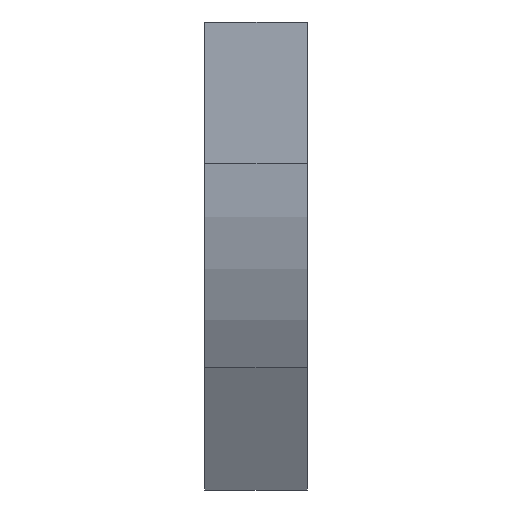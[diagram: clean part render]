
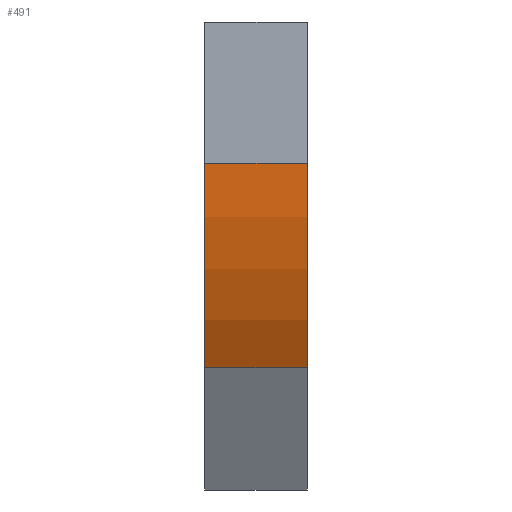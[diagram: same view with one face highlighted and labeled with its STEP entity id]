
A CAD part, left-side view. The second image highlights one B-rep face of the part: STEP entity #491.
In plain terms, the highlighted cylindrical face has radius 300 mm (diameter 600 mm), a partial arc.
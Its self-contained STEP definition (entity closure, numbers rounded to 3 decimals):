
#107 = EDGE_CURVE ( 'NONE', #1310, #1135, #1144, .T. ) ;
#119 = CARTESIAN_POINT ( 'NONE',  ( 300., 0., -103.59 ) ) ;
#198 = AXIS2_PLACEMENT_3D ( 'NONE', #375, #250, #1656 ) ;
#250 = DIRECTION ( 'NONE',  ( 0., -1., 0. ) ) ;
#261 = ORIENTED_EDGE ( 'NONE', *, *, #564, .F. ) ;
#332 = VERTEX_POINT ( 'NONE', #1232 ) ;
#375 = CARTESIAN_POINT ( 'NONE',  ( 300., 0., -103.59 ) ) ;
#388 = CARTESIAN_POINT ( 'NONE',  ( 0., 0., -103.59 ) ) ;
#491 = ADVANCED_FACE ( 'NONE', ( #1662 ), #1515, .T. ) ;
#561 = DIRECTION ( 'NONE',  ( 0., -1., 0. ) ) ;
#564 = EDGE_CURVE ( 'NONE', #1135, #332, #1242, .T. ) ;
#593 = EDGE_CURVE ( 'NONE', #1117, #332, #1077, .T. ) ;
#636 = DIRECTION ( 'NONE',  ( 0., -1., 0. ) ) ;
#738 = EDGE_CURVE ( 'NONE', #1310, #1117, #1211, .T. ) ;
#760 = DIRECTION ( 'NONE',  ( 0., -1., 0. ) ) ;
#800 = DIRECTION ( 'NONE',  ( 0., -1., 0. ) ) ;
#892 = AXIS2_PLACEMENT_3D ( 'NONE', #119, #636, #1393 ) ;
#916 = ORIENTED_EDGE ( 'NONE', *, *, #107, .F. ) ;
#942 = CARTESIAN_POINT ( 'NONE',  ( 0., 0., -103.59 ) ) ;
#962 = CARTESIAN_POINT ( 'NONE',  ( 300., 75., -103.59 ) ) ;
#1077 = LINE ( 'NONE', #1085, #1349 ) ;
#1082 = ORIENTED_EDGE ( 'NONE', *, *, #593, .T. ) ;
#1085 = CARTESIAN_POINT ( 'NONE',  ( 40.192, 0., -253.59 ) ) ;
#1099 = EDGE_LOOP ( 'NONE', ( #261, #916, #1512, #1082 ) ) ;
#1117 = VERTEX_POINT ( 'NONE', #1454 ) ;
#1135 = VERTEX_POINT ( 'NONE', #942 ) ;
#1144 = LINE ( 'NONE', #388, #1611 ) ;
#1211 = CIRCLE ( 'NONE', #1448, 300. ) ;
#1232 = CARTESIAN_POINT ( 'NONE',  ( 40.192, 0., -253.59 ) ) ;
#1242 = CIRCLE ( 'NONE', #198, 300. ) ;
#1310 = VERTEX_POINT ( 'NONE', #1614 ) ;
#1349 = VECTOR ( 'NONE', #561, 1000. ) ;
#1393 = DIRECTION ( 'NONE',  ( 0., 0., -1. ) ) ;
#1448 = AXIS2_PLACEMENT_3D ( 'NONE', #962, #800, #1464 ) ;
#1454 = CARTESIAN_POINT ( 'NONE',  ( 40.192, 75., -253.59 ) ) ;
#1464 = DIRECTION ( 'NONE',  ( -1., 0., 0. ) ) ;
#1512 = ORIENTED_EDGE ( 'NONE', *, *, #738, .T. ) ;
#1515 = CYLINDRICAL_SURFACE ( 'NONE', #892, 300. ) ;
#1611 = VECTOR ( 'NONE', #760, 1000. ) ;
#1614 = CARTESIAN_POINT ( 'NONE',  ( 0., 75., -103.59 ) ) ;
#1656 = DIRECTION ( 'NONE',  ( -1., 0., 0. ) ) ;
#1662 = FACE_OUTER_BOUND ( 'NONE', #1099, .T. ) ;
